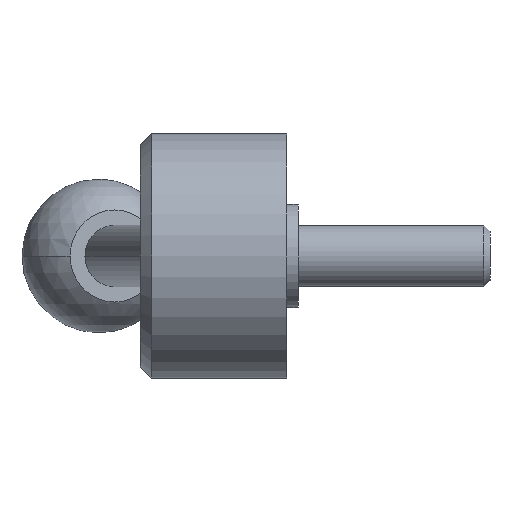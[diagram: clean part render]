
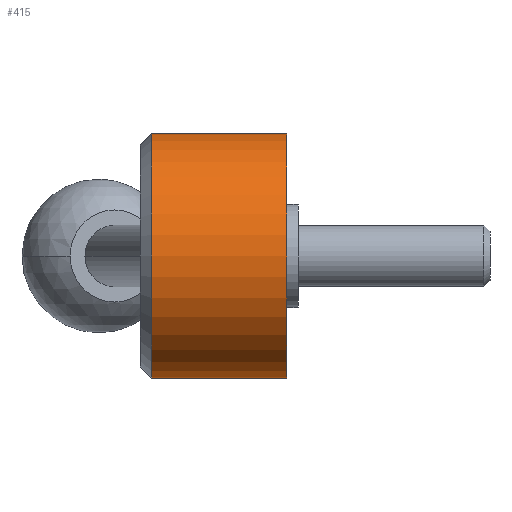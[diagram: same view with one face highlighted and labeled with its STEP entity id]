
A CAD part, left-side view. The second image highlights one B-rep face of the part: STEP entity #415.
In plain terms, the highlighted cylindrical face has radius 16 mm (diameter 32 mm), a partial arc.
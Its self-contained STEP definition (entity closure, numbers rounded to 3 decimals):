
#2 = VECTOR ( 'NONE', #756, 1000. ) ;
#7 = CARTESIAN_POINT ( 'NONE',  ( 0., 0., 0. ) ) ;
#28 = DIRECTION ( 'NONE',  ( 0., -1., 0. ) ) ;
#64 = EDGE_LOOP ( 'NONE', ( #632, #157, #73, #735 ) ) ;
#73 = ORIENTED_EDGE ( 'NONE', *, *, #471, .T. ) ;
#80 = CIRCLE ( 'NONE', #753, 16. ) ;
#153 = DIRECTION ( 'NONE',  ( 0., -1., 0. ) ) ;
#155 = EDGE_CURVE ( 'NONE', #256, #523, #80, .T. ) ;
#157 = ORIENTED_EDGE ( 'NONE', *, *, #685, .T. ) ;
#158 = CARTESIAN_POINT ( 'NONE',  ( 0., 0., -16. ) ) ;
#197 = VERTEX_POINT ( 'NONE', #249 ) ;
#212 = LINE ( 'NONE', #416, #2 ) ;
#225 = LINE ( 'NONE', #707, #858 ) ;
#249 = CARTESIAN_POINT ( 'NONE',  ( 0., 17.6, 16. ) ) ;
#256 = VERTEX_POINT ( 'NONE', #609 ) ;
#286 = AXIS2_PLACEMENT_3D ( 'NONE', #345, #547, #681 ) ;
#322 = VERTEX_POINT ( 'NONE', #803 ) ;
#345 = CARTESIAN_POINT ( 'NONE',  ( 0., 17.6, 0. ) ) ;
#349 = FACE_OUTER_BOUND ( 'NONE', #64, .T. ) ;
#369 = DIRECTION ( 'NONE',  ( 0., 0., -1. ) ) ;
#415 = ADVANCED_FACE ( 'NONE', ( #349 ), #627, .T. ) ;
#416 = CARTESIAN_POINT ( 'NONE',  ( 0., 0., 16. ) ) ;
#471 = EDGE_CURVE ( 'NONE', #322, #523, #225, .T. ) ;
#523 = VERTEX_POINT ( 'NONE', #158 ) ;
#547 = DIRECTION ( 'NONE',  ( 0., -1., 0. ) ) ;
#609 = CARTESIAN_POINT ( 'NONE',  ( 0., 0., 16. ) ) ;
#627 = CYLINDRICAL_SURFACE ( 'NONE', #786, 16. ) ;
#632 = ORIENTED_EDGE ( 'NONE', *, *, #862, .F. ) ;
#645 = CARTESIAN_POINT ( 'NONE',  ( 0., 0., 0. ) ) ;
#680 = CIRCLE ( 'NONE', #286, 16. ) ;
#681 = DIRECTION ( 'NONE',  ( 0., 0., 1. ) ) ;
#685 = EDGE_CURVE ( 'NONE', #197, #322, #680, .T. ) ;
#702 = DIRECTION ( 'NONE',  ( 0., 0., -1. ) ) ;
#707 = CARTESIAN_POINT ( 'NONE',  ( 0., 0., -16. ) ) ;
#735 = ORIENTED_EDGE ( 'NONE', *, *, #155, .F. ) ;
#753 = AXIS2_PLACEMENT_3D ( 'NONE', #645, #28, #702 ) ;
#756 = DIRECTION ( 'NONE',  ( 0., -1., 0. ) ) ;
#786 = AXIS2_PLACEMENT_3D ( 'NONE', #7, #842, #369 ) ;
#803 = CARTESIAN_POINT ( 'NONE',  ( 0., 17.6, -16. ) ) ;
#842 = DIRECTION ( 'NONE',  ( 0., -1., 0. ) ) ;
#858 = VECTOR ( 'NONE', #153, 1000. ) ;
#862 = EDGE_CURVE ( 'NONE', #197, #256, #212, .T. ) ;
